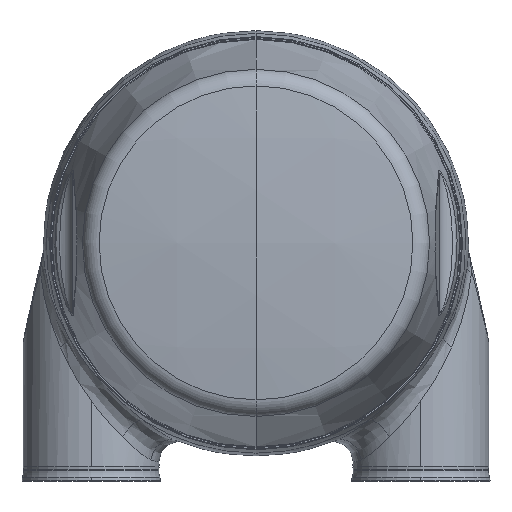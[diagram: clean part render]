
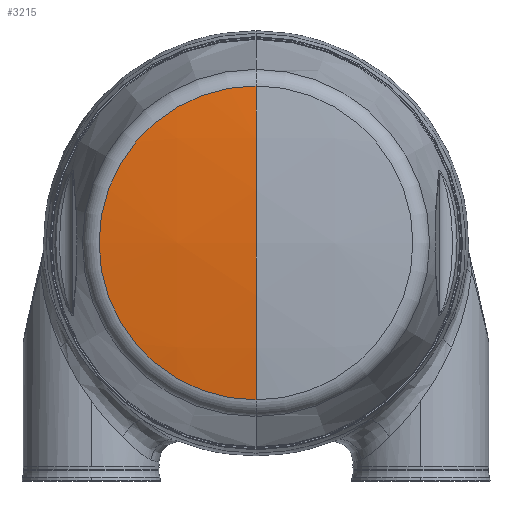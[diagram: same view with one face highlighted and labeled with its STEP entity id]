
A CAD part, top view. The second image highlights one B-rep face of the part: STEP entity #3215.
In plain terms, the highlighted spherical face has radius 200 mm.
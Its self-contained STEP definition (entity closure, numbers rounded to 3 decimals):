
#47 = FACE_OUTER_BOUND ( 'NONE', #2152, .T. ) ;
#833 = EDGE_CURVE ( 'NONE', #9949, #2492, #10124, .T. ) ;
#1454 = CARTESIAN_POINT ( 'NONE',  ( 0., 0., -158.249 ) ) ;
#1564 = CARTESIAN_POINT ( 'NONE',  ( 0., 0., 41.751 ) ) ;
#1789 = DIRECTION ( 'NONE',  ( -1., 0., 0. ) ) ;
#2152 = EDGE_LOOP ( 'NONE', ( #13637, #16410, #12654 ) ) ;
#2492 = VERTEX_POINT ( 'NONE', #10978 ) ;
#2934 = CARTESIAN_POINT ( 'NONE',  ( 0., 0., 40.272 ) ) ;
#3215 = ADVANCED_FACE ( 'NONE', ( #47 ), #7098, .T. ) ;
#3703 = CARTESIAN_POINT ( 'NONE',  ( 0., -24.283, 40.272 ) ) ;
#4183 = AXIS2_PLACEMENT_3D ( 'NONE', #7774, #6269, #15661 ) ;
#4590 = CARTESIAN_POINT ( 'NONE',  ( 0., 0., -158.249 ) ) ;
#6269 = DIRECTION ( 'NONE',  ( 1., 0., 0. ) ) ;
#7098 = SPHERICAL_SURFACE ( 'NONE', #7741, 200. ) ;
#7164 = DIRECTION ( 'NONE',  ( 0., 1., 0. ) ) ;
#7255 = DIRECTION ( 'NONE',  ( 0., -1., 0. ) ) ;
#7741 = AXIS2_PLACEMENT_3D ( 'NONE', #1454, #12421, #13664 ) ;
#7774 = CARTESIAN_POINT ( 'NONE',  ( 0., 0., -158.249 ) ) ;
#7887 = EDGE_CURVE ( 'NONE', #2492, #9174, #10304, .T. ) ;
#8888 = AXIS2_PLACEMENT_3D ( 'NONE', #2934, #15239, #7164 ) ;
#9174 = VERTEX_POINT ( 'NONE', #3703 ) ;
#9949 = VERTEX_POINT ( 'NONE', #1564 ) ;
#10124 = CIRCLE ( 'NONE', #12098, 200. ) ;
#10304 = CIRCLE ( 'NONE', #8888, 24.283 ) ;
#10978 = CARTESIAN_POINT ( 'NONE',  ( 0., 24.283, 40.272 ) ) ;
#12098 = AXIS2_PLACEMENT_3D ( 'NONE', #4590, #1789, #7255 ) ;
#12421 = DIRECTION ( 'NONE',  ( -1., 0., 0. ) ) ;
#12654 = ORIENTED_EDGE ( 'NONE', *, *, #7887, .T. ) ;
#12773 = EDGE_CURVE ( 'NONE', #9949, #9174, #16919, .T. ) ;
#13637 = ORIENTED_EDGE ( 'NONE', *, *, #12773, .F. ) ;
#13664 = DIRECTION ( 'NONE',  ( 0., -1., 0. ) ) ;
#15239 = DIRECTION ( 'NONE',  ( 0., 0., 1. ) ) ;
#15661 = DIRECTION ( 'NONE',  ( 0., 1., 0. ) ) ;
#16410 = ORIENTED_EDGE ( 'NONE', *, *, #833, .T. ) ;
#16919 = CIRCLE ( 'NONE', #4183, 200. ) ;
